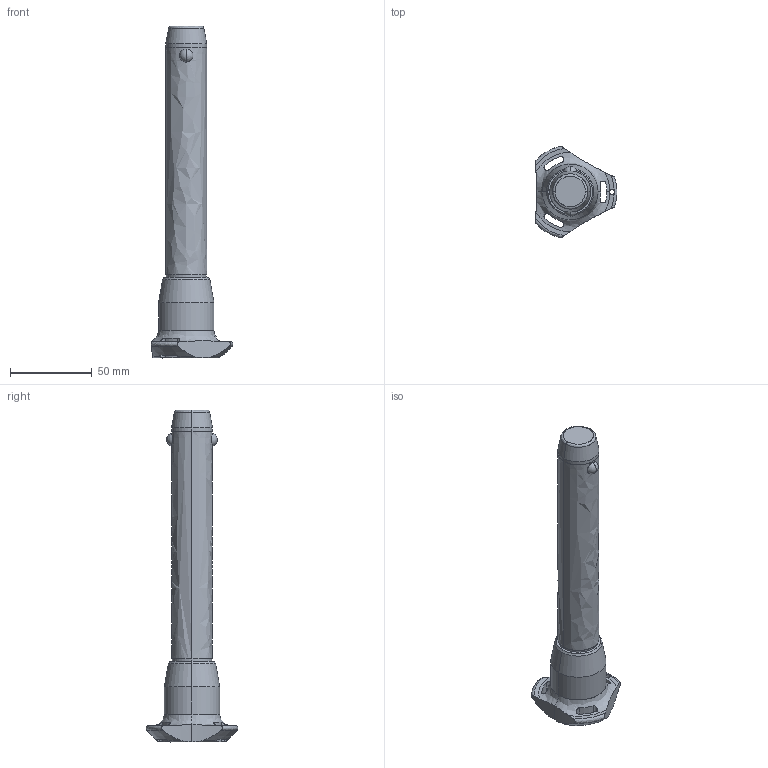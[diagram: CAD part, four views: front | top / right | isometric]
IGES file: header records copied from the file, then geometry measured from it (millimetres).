
Start section: SolidWorks IGES file using analytic representation for surfaces
Global section: file name: C:\Users\ianosborn\Desktop\QR1726_v2\QR1726_v2_20251115_IGES\QR1726.M25-130-T.igs; native system: SolidWorks 2019; preprocessor: SolidWorks 2019; author: IanOsborn; date: 251113.113055; units: millimetre
Bounding box: 50.03 x 56.02 x 202.7 mm (x, y, z)
Surface area: 21660 mm2 (no closed solid volume)
Topology: 0 solids, 0 shells, 68 faces, 1382 edges, 1378 vertices
Faces by surface type: revolution 52, bspline 16
